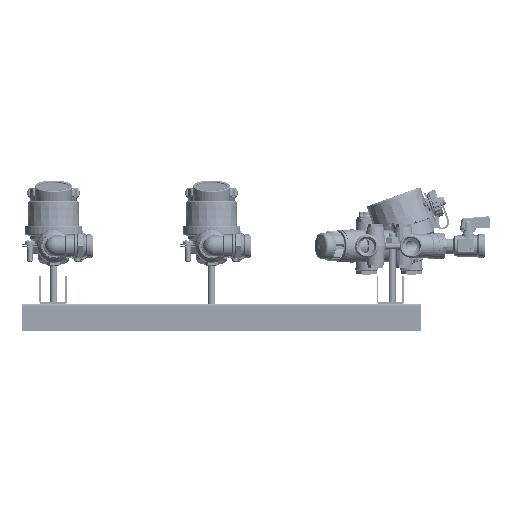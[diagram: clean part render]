
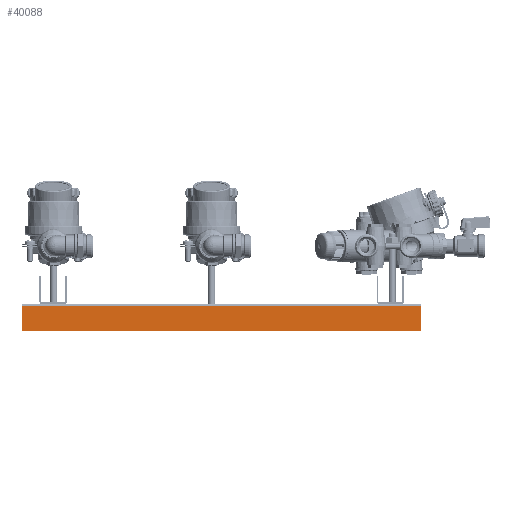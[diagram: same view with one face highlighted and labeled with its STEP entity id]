
A CAD part, front view. The second image highlights one B-rep face of the part: STEP entity #40088.
In plain terms, the highlighted planar face has unit normal (0, -1, 0) as drawn and (1, 0, 0) by its records, which use the part's own axes.
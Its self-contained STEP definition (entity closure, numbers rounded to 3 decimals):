
#40088=ADVANCED_FACE('',(#222094),#222096,.T.);
#222094=FACE_BOUND('',#222095,.T.);
#222095=EDGE_LOOP('',(#327195,#327196,#327197,#327198));
#222096=PLANE('',#222097);
#222097=AXIS2_PLACEMENT_3D('',#222098,#222099,#222100);
#222098=CARTESIAN_POINT('',(15.5,-450.,-2.5));
#222099=DIRECTION('',(1.,0.,0.));
#222100=DIRECTION('',(0.,0.,-1.));
#327195=ORIENTED_EDGE('',*,*,#380616,.T.);
#327196=ORIENTED_EDGE('',*,*,#380644,.T.);
#327197=ORIENTED_EDGE('',*,*,#380634,.F.);
#327198=ORIENTED_EDGE('',*,*,#380641,.F.);
#380616=EDGE_CURVE('',#449331,#449328,#449332,.T.);
#380634=EDGE_CURVE('',#449360,#449362,#449363,.T.);
#380641=EDGE_CURVE('',#449331,#449360,#449370,.T.);
#380644=EDGE_CURVE('',#449328,#449362,#449373,.T.);
#449328=VERTEX_POINT('',#753946);
#449331=VERTEX_POINT('',#753951);
#449332=LINE('',#753952,#753953);
#449360=VERTEX_POINT('',#754021);
#449362=VERTEX_POINT('',#754026);
#449363=LINE('',#754027,#754028);
#449370=LINE('',#754048,#754049);
#449373=LINE('',#754057,#754058);
#753946=CARTESIAN_POINT('',(15.5,-450.,-31.2));
#753951=CARTESIAN_POINT('',(15.5,-450.,-2.5));
#753952=CARTESIAN_POINT('',(15.5,-450.,-2.5));
#753953=VECTOR('',#753954,1.);
#753954=DIRECTION('',(0.,0.,-1.));
#754021=CARTESIAN_POINT('',(15.5,0.,-2.5));
#754026=CARTESIAN_POINT('',(15.5,0.,-31.2));
#754027=CARTESIAN_POINT('',(15.5,0.,-2.5));
#754028=VECTOR('',#754029,1.);
#754029=DIRECTION('',(0.,0.,-1.));
#754048=CARTESIAN_POINT('',(15.5,-450.,-2.5));
#754049=VECTOR('',#754050,1.);
#754050=DIRECTION('',(0.,1.,0.));
#754057=CARTESIAN_POINT('',(15.5,-450.,-31.2));
#754058=VECTOR('',#754059,1.);
#754059=DIRECTION('',(0.,1.,0.));
